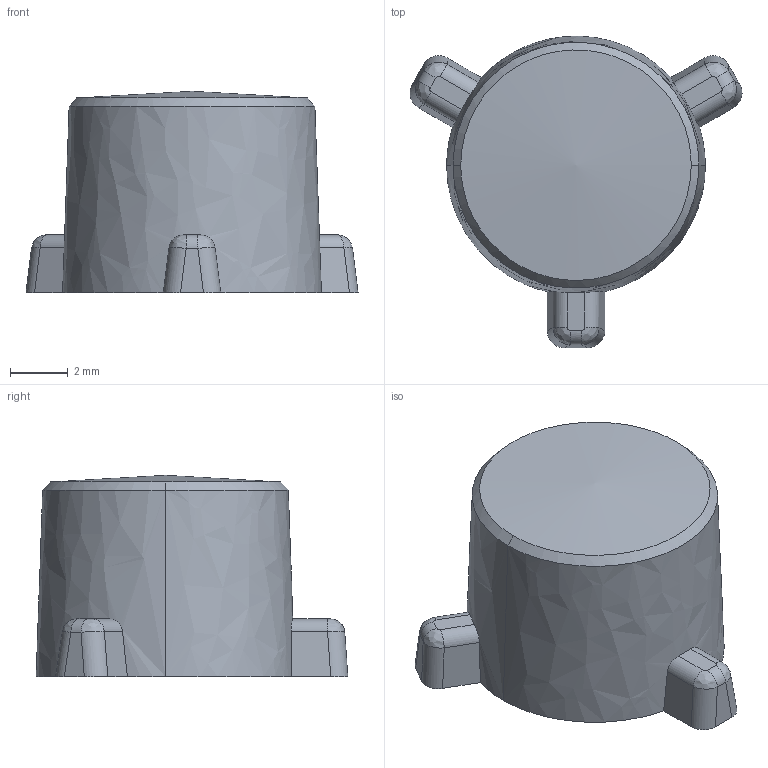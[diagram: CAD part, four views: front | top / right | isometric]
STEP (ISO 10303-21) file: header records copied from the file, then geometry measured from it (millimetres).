
FILE_DESCRIPTION(/* description */ (''),/* implementation_level */ '2;1');
FILE_NAME(/* name */ 'red button',/* time_stamp */ '2026-04-10T19:52:03+09:00',/* author */ (''),/* organization */ (''),/* preprocessor_version */ 'ST-DEVELOPER v16.5',/* originating_system */ '',/* authorisation */ '');
FILE_SCHEMA (('CONFIG_CONTROL_DESIGN'));
Length unit declared in the file: millimetre
Products named in the file (1): Document
Bounding box: 11.55 x 10.84 x 7 mm (x, y, z)
Volume: 307.1 mm3; surface area: 530 mm2
Topology: 1 solids, 1 shells, 66 faces, 164 edges, 102 vertices
Faces by surface type: bspline 29, cylinder 23, plane 14
Entity records: 2421 total; most frequent: CARTESIAN_POINT 1356, ORIENTED_EDGE 328, EDGE_CURVE 164, VERTEX_POINT 102, EDGE_LOOP 68, ADVANCED_FACE 66, FACE_OUTER_BOUND 66, B_SPLINE_CURVE_WITH_KNOTS 61
